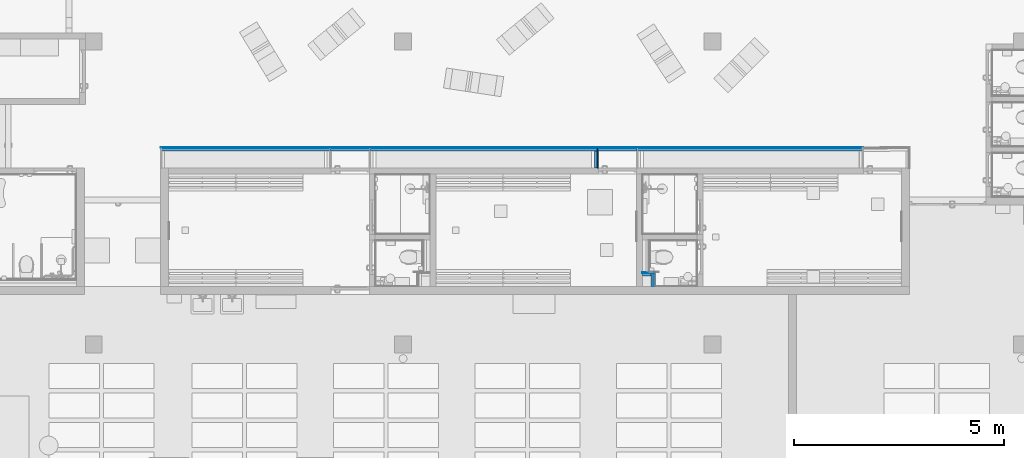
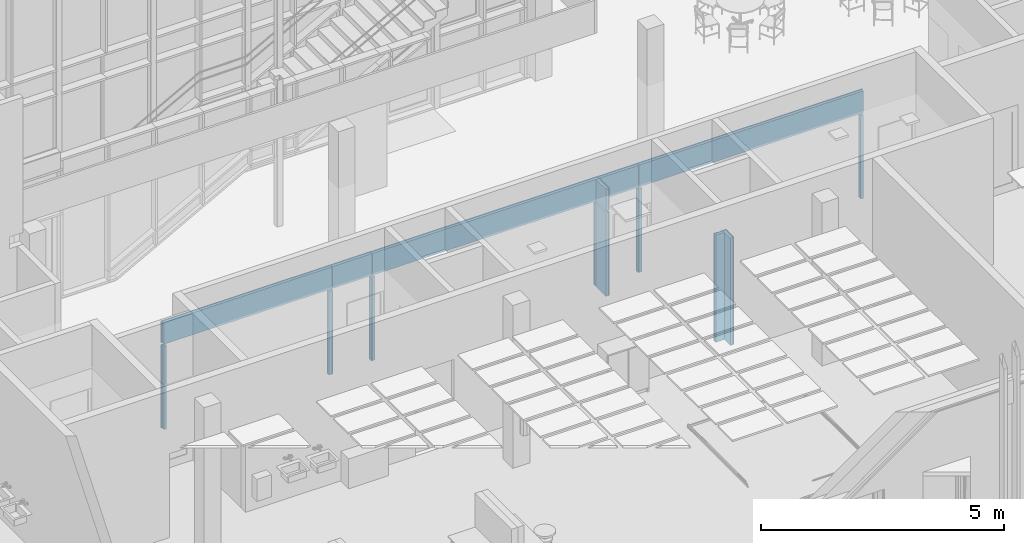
# One storey, part 196 of 301: 12 building element parts, 6 openings, 4 elements without a shape of their own.
"""IFC2X3 building model written with IfcOpenShell, lengths in millimetres."""

import ifcopenshell
import ifcopenshell.guid

model = None  # the IFC model being written
_history = None  # IfcOwnerHistory: only IFC2X3 demands one
_inside = {}  # id of a spatial element -> (the spatial element, [elements in it])
_under = {}  # id of a project, library or spatial element -> (it, [spatial elements below it])
_declared = {}  # id of a project -> (the project, [libraries it declares])
_typed = {}  # id of a type object -> (the type object, [elements of that type])
_made_of = {}  # id of a material, layer set ... -> (it, [elements and type objects made of it])


def new_model(schema):
    """Start an empty IFC model of exactly this schema.

    Asked for "IFC4X3", IfcOpenShell would pick the latest addendum, in which some entities
    have other attributes; the version numbers below select the first issue.
    IFC2X3 requires an IfcOwnerHistory on every rooted entity: one is made here for all.
    """
    global model, _history
    if schema == "IFC4X3":
        model = ifcopenshell.file(schema_version=(4, 3, 0, 0))
    else:
        model = ifcopenshell.file(schema=schema)
    _inside.clear()
    _under.clear()
    _declared.clear()
    _typed.clear()
    _made_of.clear()
    _history = None
    if model.schema == "IFC2X3":
        org = make("IfcOrganization", Name="unknown")
        user = make(
            "IfcPersonAndOrganization",
            ThePerson=make("IfcPerson", FamilyName="unknown"),
            TheOrganization=org,
        )
        app = make(
            "IfcApplication",
            ApplicationDeveloper=org,
            Version="unknown",
            ApplicationFullName="unknown",
            ApplicationIdentifier="unknown",
        )
        _history = make(
            "IfcOwnerHistory",
            OwningUser=user,
            OwningApplication=app,
            ChangeAction="ADDED",
            CreationDate=0,
        )
    return model


def make(cls, **values):
    """One entity of the class cls with the attributes given. An attribute that is None is left unset."""
    return model.create_entity(
        cls, **{name: value for name, value in values.items() if value is not None}
    )


def entity(cls, *values):
    """Any entity or typed value of the class cls, its attributes in the order of the schema. None: left unset."""
    e = model.create_entity(cls)
    for i, value in enumerate(values):
        if value is not None:
            e[i] = value
    return e


def rooted(cls, **values):
    """An entity with a GlobalId (a new one), such as an element, a storey or a relation."""
    return make(cls, GlobalId=ifcopenshell.guid.new(), OwnerHistory=_history, **values)


def si_unit(unit_type, name, prefix=None):
    """IfcSIUnit, for example si_unit("LENGTHUNIT", "METRE", prefix="MILLI")."""
    return make("IfcSIUnit", UnitType=unit_type, Prefix=prefix, Name=name)


def converted_unit(unit_type, name, factor, base, dimensions=None, offset=None):
    """IfcConversionBasedUnit, such as the inch: factor (a typed value) times the base unit."""
    return make(
        "IfcConversionBasedUnit"
        if offset is None
        else "IfcConversionBasedUnitWithOffset",
        ConversionOffset=offset,
        Dimensions=None
        if dimensions is None
        else entity("IfcDimensionalExponents", *dimensions),
        UnitType=unit_type,
        Name=name,
        ConversionFactor=make(
            "IfcMeasureWithUnit", ValueComponent=factor, UnitComponent=base
        ),
    )


def derived_unit(unit_type, elements):
    """IfcDerivedUnit: a product of units, each with its exponent."""
    return make(
        "IfcDerivedUnit",
        Elements=[
            make("IfcDerivedUnitElement", Unit=unit, Exponent=power)
            for unit, power in elements
        ],
        UnitType=unit_type,
    )


def money_unit(currency):
    """IfcMonetaryUnit."""
    return make("IfcMonetaryUnit", Currency=currency)


def assignment(units):
    """IfcUnitAssignment: the units of a project."""
    return None if units is None else make("IfcUnitAssignment", Units=units)


def point(xyz):
    """IfcCartesianPoint."""
    return None if xyz is None else make("IfcCartesianPoint", Coordinates=xyz)


def direction(xyz):
    """IfcDirection."""
    return None if xyz is None else make("IfcDirection", DirectionRatios=xyz)


def frame(location, z_axis=None, x_axis=None):
    """IfcAxis2Placement3D, a coordinate frame: its origin and axes. An axis left out is left unset."""
    return make(
        "IfcAxis2Placement3D",
        Location=point(location),
        Axis=direction(z_axis),
        RefDirection=direction(x_axis),
    )


def origin_with_axes():
    """The frame at (0, 0, 0) with the z axis (0, 0, 1) and the x axis (1, 0, 0) written out."""
    return frame((0.0, 0.0, 0.0), z_axis=(0.0, 0.0, 1.0), x_axis=(1.0, 0.0, 0.0))


def place(relative_to, where):
    """IfcLocalPlacement: puts the frame where relative to a parent placement (None: the world)."""
    return make(
        "IfcLocalPlacement", PlacementRelTo=relative_to, RelativePlacement=where
    )


def context(
    kind, dimensions, precision=None, world=None, true_north=None, identifier=None
):
    """IfcGeometricRepresentationContext, for example the 3D "Model" context."""
    return make(
        "IfcGeometricRepresentationContext",
        ContextIdentifier=identifier,
        ContextType=kind,
        CoordinateSpaceDimension=dimensions,
        Precision=precision,
        WorldCoordinateSystem=world,
        TrueNorth=true_north,
    )


def subcontext(parent, identifier, kind, view, scale=None):
    """IfcGeometricRepresentationSubContext, for example "Body" below "Model"."""
    return make(
        "IfcGeometricRepresentationSubContext",
        ContextIdentifier=identifier,
        ContextType=kind,
        ParentContext=parent,
        TargetScale=scale,
        TargetView=view,
    )


def project(units=None, contexts=None):
    """IfcProject with its units and contexts."""
    return rooted(
        "IfcProject",
        Name="project",
        RepresentationContexts=contexts,
        UnitsInContext=assignment(units),
    )


def spatial(cls, under=None, at=None, **own):
    """A site, building, storey or space (cls), placed at a placement, below another one or the project."""
    s = rooted(cls, ObjectPlacement=at, **own)
    if under is not None:
        _under.setdefault(under.id(), (under, []))[1].append(s)
    return s


def faces_of(points, faces, orient=None, outer=None):
    """IfcFace entities. A face is a list of loops; a loop is a list of indices into points, from 0.

    orient and outer hold one flag for each loop. By default every Orientation is true, the
    first loop of a face is its IfcFaceOuterBound and the others are IfcFaceBound.
    """
    made = []
    for i, loops in enumerate(faces):
        bounds = []
        for j, loop in enumerate(loops):
            is_outer = j == 0 if outer is None else outer[i][j]
            bounds.append(
                make(
                    "IfcFaceOuterBound" if is_outer else "IfcFaceBound",
                    Bound=make("IfcPolyLoop", Polygon=[points[k] for k in loop]),
                    Orientation=True if orient is None else orient[i][j],
                )
            )
        made.append(make("IfcFace", Bounds=bounds))
    return made


def faceted_brep(points, faces, orient=None, outer=None, voids=None):
    """IfcFacetedBrep: a solid bounded by flat faces; with voids (closed shells), ...WithVoids."""
    shared = [point(p) for p in points]
    hull = make("IfcClosedShell", CfsFaces=faces_of(shared, faces, orient, outer))
    if voids is None:
        return make("IfcFacetedBrep", Outer=hull)
    return make(
        "IfcFacetedBrepWithVoids",
        Outer=hull,
        Voids=[
            make(cls, CfsFaces=faces_of(shared, fs, o, b)) for cls, fs, o, b in voids
        ],
    )


def shape(context_of_items, identifier, shape_type, items):
    """IfcShapeRepresentation: the items that make up one representation, for example the "Body"."""
    return make(
        "IfcShapeRepresentation",
        ContextOfItems=context_of_items,
        RepresentationIdentifier=identifier,
        RepresentationType=shape_type,
        Items=items,
    )


def material(Name=None, Category=None):
    """IfcMaterial."""
    return make("IfcMaterial", Name=Name, Category=Category)


def made_of(thing, what):
    """Note that an element or type object is made of a material, layer set ...; save() writes the relation."""
    if what is not None:
        _made_of.setdefault(what.id(), (what, []))[1].append(thing)
    return thing


def type_object(cls, material=None, **own):
    """A type object (cls), such as IfcWallType, which elements share."""
    return made_of(rooted(cls, **own), material)


def element(
    cls,
    number,
    at=None,
    inside=None,
    cuts=None,
    type_object=None,
    material=None,
    context=None,
    identifier="Body",
    shape_type=None,
    held_by="IfcProductDefinitionShape",
    body=None,
    shapes=None,
    **own,
):
    """One element of the class cls, such as IfcWall. Its Tag is "e" and its number.

    at: its placement. inside: the storey or other place that contains it. cuts: it is an
    opening in that element (IfcRelVoidsElement). A single representation is given by context,
    identifier, shape_type and body (its items); several are given by shapes. held_by: the class
    of the entity that holds the representations. save() writes the other relations.
    """
    e = rooted(cls, Tag="e%d" % number, ObjectPlacement=at, **own)
    if body is not None:
        shapes = [shape(context, identifier, shape_type, body)]
    if shapes is not None:
        e.Representation = make(held_by, Representations=shapes)
    if inside is not None:
        _inside.setdefault(inside.id(), (inside, []))[1].append(e)
    if cuts is not None:
        rooted(
            "IfcRelVoidsElement", RelatingBuildingElement=cuts, RelatedOpeningElement=e
        )
    if type_object is not None:
        _typed.setdefault(type_object.id(), (type_object, []))[1].append(e)
    return made_of(e, material)


def aggregate(whole, parts):
    """IfcRelAggregates: a whole, such as a stair, and the parts it consists of."""
    return rooted("IfcRelAggregates", RelatingObject=whole, RelatedObjects=parts)


def save(model, path):
    """Write the relations noted so far, then the file.

    IfcRelAggregates (storeys below a building ...), IfcRelContainedInSpatialStructure (elements
    in a storey), IfcRelDefinesByType, IfcRelAssociatesMaterial and IfcRelDeclares: one each for
    every whole, place, type object, material and project.
    """
    for whole, parts in _under.values():
        aggregate(whole, parts)
    for where, things in _inside.values():
        rooted(
            "IfcRelContainedInSpatialStructure",
            RelatedElements=things,
            RelatingStructure=where,
        )
    for kind, things in _typed.values():
        rooted("IfcRelDefinesByType", RelatedObjects=things, RelatingType=kind)
    for what, things in _made_of.values():
        rooted("IfcRelAssociatesMaterial", RelatedObjects=things, RelatingMaterial=what)
    for by, libraries in _declared.values():
        rooted("IfcRelDeclares", RelatingContext=by, RelatedDefinitions=libraries)
    model.write(path)


model = new_model("IFC2X3")

# Units and contexts
model_context = context("Model", 3, precision=0.01, world=origin_with_axes(), true_north=direction((0.0, 1.0)))
body_context = subcontext(model_context, "Body", "Model", "MODEL_VIEW")
ifc_project = project(units=[si_unit("LENGTHUNIT", "METRE", prefix="MILLI"), si_unit("AREAUNIT", "SQUARE_METRE"), si_unit("VOLUMEUNIT", "CUBIC_METRE"), converted_unit("PLANEANGLEUNIT", "DEGREE", entity("IfcPlaneAngleMeasure", 0.0174532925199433), si_unit("PLANEANGLEUNIT", "RADIAN"), dimensions=[0, 0, 0, 0, 0, 0, 0]), money_unit("EUR"), converted_unit("TIMEUNIT", "Year", entity("IfcTimeMeasure", 31557600.0), si_unit("TIMEUNIT", "SECOND"), dimensions=[0, 0, 1, 0, 0, 0, 0]), si_unit("MASSUNIT", "GRAM", prefix="KILO"), si_unit("THERMODYNAMICTEMPERATUREUNIT", "DEGREE_CELSIUS"), si_unit("LUMINOUSINTENSITYUNIT", "LUMEN"), si_unit("ENERGYUNIT", "JOULE", prefix="MEGA"), derived_unit("THERMALCONDUCTANCEUNIT", [(si_unit("POWERUNIT", "WATT"), 1), (si_unit("LENGTHUNIT", "METRE"), -1), (si_unit("THERMODYNAMICTEMPERATUREUNIT", "KELVIN"), -1)]), derived_unit("SPECIFICHEATCAPACITYUNIT", [(si_unit("ENERGYUNIT", "JOULE"), 1), (si_unit("MASSUNIT", "GRAM", prefix="KILO"), -1), (si_unit("THERMODYNAMICTEMPERATUREUNIT", "KELVIN"), -1)]), derived_unit("MASSDENSITYUNIT", [(si_unit("MASSUNIT", "GRAM", prefix="KILO"), 1), (si_unit("VOLUMEUNIT", "CUBIC_METRE"), -1)])], contexts=[model_context])

# Site, building, storey
site_placement = place(None, frame((0.0, 0.0, 8650.0), z_axis=(0.0, 0.0, 1.0), x_axis=(1.0, 0.0, 0.0)))
site = spatial("IfcSite", under=ifc_project, at=site_placement, Name="43301:001:0844", CompositionType="ELEMENT")
building_placement = place(site_placement, origin_with_axes())
building = spatial("IfcBuilding", under=site, at=building_placement, Name="Kuressaare Ametikooli tuulikute mehaanikute õppekorpus", CompositionType="ELEMENT")
storey_placement = place(building_placement, origin_with_axes())
storey = spatial("IfcBuildingStorey", under=building, at=storey_placement, Name="1.korrus", CompositionType="ELEMENT", Elevation=0.0)

# Wall, building element parts
wall_type = type_object("IfcWallType", Name="SS-2.4 92", PredefinedType="NOTDEFINED")
wall_1_placement = place(storey_placement, frame((115855.2601639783, 21264.83711779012, 0.0), z_axis=(0.0, 0.0, 1.0), x_axis=(-1.369512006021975e-07, -0.9999999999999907, 0.0)))
wall_1 = element("IfcWall", 1, at=wall_1_placement, inside=storey, type_object=wall_type, Name="Sisesein")
ifc_material_1 = material(Name="Plaster - Gypsum")
building_element_part_1_placement = place(wall_1_placement, origin_with_axes())
building_element_part_1 = element("IfcBuildingElementPart", 2, at=building_element_part_1_placement, material=ifc_material_1, Name="Plaster - Gypsum", context=body_context, shape_type="Brep", body=[
    faceted_brep([(92.0000035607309, -13.00000000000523, 2100.0), (91.99999999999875, 0.0, 2100.0), (91.99999999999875, 0.0, 0.0), (92.0000035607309, -13.00000000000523, 0.0), (500.0014242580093, 1.989519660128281e-10, 2100.0), (500.0014260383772, -12.99999999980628, 2100.0), (500.0, 0.0, 0.0), (500.0000000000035, -13.00000000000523, 0.0)], [[[0, 1, 2, 3]], [[4, 1, 0, 5]], [[1, 4, 6, 2]], [[2, 6, 7, 3]], [[5, 0, 3, 7]], [[4, 5, 7, 6]]]),
    faceted_brep([(500.0014242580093, 1.989519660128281e-10, 2150.0), (91.99999999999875, 0.0, 2150.0), (91.99999999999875, 0.0, 2700.0), (500.0, 0.0, 2700.0), (92.0000035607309, -13.00000000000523, 2150.0), (500.0014260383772, -12.99999999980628, 2150.0), (92.0000035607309, -13.00000000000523, 2700.0), (500.0000000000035, -13.00000000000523, 2700.0)], [[[0, 1, 2, 3]], [[4, 1, 0, 5]], [[1, 4, 6, 2]], [[6, 7, 3, 2]], [[5, 0, 3, 7]], [[4, 5, 7, 6]]]),
])
ifc_material_2 = material(Name="Plywood")
building_element_part_2_placement = place(wall_1_placement, origin_with_axes())
building_element_part_2 = element("IfcBuildingElementPart", 3, at=building_element_part_2_placement, material=ifc_material_2, Name="Plywood", context=body_context, shape_type="Brep", body=[
    faceted_brep([(26.000007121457, -25.99999999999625, 2100.0), (26.0000035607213, -12.99999999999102, 2100.0), (26.0000035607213, -12.99999999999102, 0.0), (26.000007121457, -25.99999999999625, 0.0), (500.0014260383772, -12.99999999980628, 2100.0), (500.0014278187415, -25.99999999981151, 2100.0), (500.0000000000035, -13.00000000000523, 0.0), (500.0, -26.00000000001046, 0.0)], [[[0, 1, 2, 3]], [[4, 1, 0, 5]], [[1, 4, 6, 2]], [[2, 6, 7, 3]], [[5, 0, 3, 7]], [[4, 5, 7, 6]]]),
    faceted_brep([(500.0014260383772, -12.99999999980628, 2150.0), (26.0000035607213, -12.99999999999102, 2150.0), (26.0000035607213, -12.99999999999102, 2700.0), (500.0000000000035, -13.00000000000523, 2700.0), (26.000007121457, -25.99999999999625, 2150.0), (500.0014278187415, -25.99999999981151, 2150.0), (26.000007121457, -25.99999999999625, 2700.0), (500.0, -26.00000000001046, 2700.0)], [[[0, 1, 2, 3]], [[4, 1, 0, 5]], [[1, 4, 6, 2]], [[6, 7, 3, 2]], [[5, 0, 3, 7]], [[4, 5, 7, 6]]]),
])
ifc_material_3 = material(Name="Air Space - Frame")
building_element_part_3_placement = place(wall_1_placement, origin_with_axes())
building_element_part_3 = element("IfcBuildingElementPart", 4, at=building_element_part_3_placement, material=ifc_material_3, Name="Air Space - Frame", context=body_context, shape_type="Brep", body=[
    faceted_brep([(92.00002519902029, -92.00000000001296, 2100.0), (92.00000712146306, -26.00000000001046, 2100.0), (92.00000712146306, -26.00000000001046, 0.0), (92.00002519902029, -92.00000000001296, 0.0), (500.0014278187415, -25.99999999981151, 2100.0), (500.00143685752, -91.9999999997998, 2100.0), (500.0, -26.00000000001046, 0.0), (500.0, -91.99999999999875, 0.0)], [[[0, 1, 2, 3]], [[4, 1, 0, 5]], [[1, 4, 6, 2]], [[2, 6, 7, 3]], [[5, 0, 3, 7]], [[4, 5, 7, 6]]]),
    faceted_brep([(500.0014278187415, -25.99999999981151, 2150.0), (92.00000712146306, -26.00000000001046, 2150.0), (92.00000712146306, -26.00000000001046, 2700.0), (500.0, -26.00000000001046, 2700.0), (92.00002519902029, -92.00000000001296, 2150.0), (500.00143685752, -91.9999999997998, 2150.0), (92.00002519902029, -92.00000000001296, 2700.0), (500.0, -91.99999999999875, 2700.0)], [[[0, 1, 2, 3]], [[4, 1, 0, 5]], [[1, 4, 6, 2]], [[6, 7, 3, 2]], [[5, 0, 3, 7]], [[4, 5, 7, 6]]]),
])
aggregate(wall_1, [building_element_part_1, building_element_part_2, building_element_part_3])

wall_2_placement = place(storey_placement, frame((117195.2610393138, 18294.83807443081, 0.0), z_axis=(0.0, 0.0, 1.0), x_axis=(3.329163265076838e-07, -0.9999999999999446, 0.0)))
wall_2 = element("IfcWall", 5, at=wall_2_placement, inside=storey, type_object=wall_type, Name="Sisesein")
building_element_part_4_placement = place(wall_2_placement, origin_with_axes())
building_element_part_4 = element("IfcBuildingElementPart", 6, at=building_element_part_4_placement, material=ifc_material_1, Name="Plaster - Gypsum", context=body_context, shape_type="Brep", body=[
    faceted_brep([(340.0017374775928, 0.0, 0.0), (2.980232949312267e-06, 0.0, 0.0), (0.0, 0.0, 2700.0), (340.0017374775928, 0.0, 2700.0), (340.0017374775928, 0.0, 2600.0), (340.0017331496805, -13.00000000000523, 0.0), (-1.347679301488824e-06, -13.00000000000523, 0.0), (-4.32791580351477e-06, -13.00000000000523, 2700.0), (340.0017374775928, -13.00000000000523, 2700.0)], [[[0, 1, 2, 3, 4]], [[5, 6, 1, 0]], [[7, 2, 1, 6]], [[3, 2, 7, 8]], [[3, 8, 5, 0, 4]], [[7, 6, 5, 8]]]),
])
building_element_part_5_placement = place(wall_2_placement, origin_with_axes())
building_element_part_5 = element("IfcBuildingElementPart", 7, at=building_element_part_5_placement, material=ifc_material_2, Name="Plywood", context=body_context, shape_type="Brep", body=[
    faceted_brep([(12.99999567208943, -13.00000000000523, 0.0), (12.99999567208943, -13.00000000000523, 2600.0), (12.99999567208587, -13.00000000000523, 2700.0), (340.0017374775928, -13.00000000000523, 2700.0), (340.0017331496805, -13.00000000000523, 0.0), (12.99999134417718, -25.99999999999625, 0.0), (12.99999134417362, -25.99999999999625, 2700.0), (340.0017374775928, -25.99999999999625, 2700.0), (340.0017288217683, -26.00000000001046, 0.0)], [[[0, 1, 2, 3, 4]], [[1, 0, 5, 6, 2]], [[2, 6, 7, 3]], [[3, 7, 8, 4]], [[5, 0, 4, 8]], [[5, 8, 7, 6]]]),
])

# Wall, building element part
wall_3_placement = place(storey_placement, frame((116905.2601838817, 18294.83807443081, 0.0), z_axis=(0.0, 0.0, 1.0), x_axis=(1.0, 0.0, 0.0)))
wall_3 = element("IfcWall", 8, at=wall_3_placement, inside=storey, type_object=wall_type, Name="Sisesein")
building_element_part_6_placement = place(wall_3_placement, origin_with_axes())
building_element_part_6 = element("IfcBuildingElementPart", 9, at=building_element_part_6_placement, material=ifc_material_1, Name="Plaster - Gypsum", context=body_context, shape_type="Brep", body=[
    faceted_brep([(78.00085976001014, -12.99999999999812, 2700.0), (78.00085543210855, 0.0, 2700.0), (0.005105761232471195, 0.0, 2700.0), (0.005134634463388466, -12.99999999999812, 2700.0), (78.00085976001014, -12.99999999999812, 2600.0), (78.00085976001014, -13.00000000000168, 0.0), (78.00085543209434, 0.0, 0.0), (0.005105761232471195, 0.0, 0.0), (0.005134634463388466, -13.00000000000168, 0.0)], [[[0, 1, 2, 3]], [[1, 0, 4, 5, 6]], [[1, 6, 7, 2]], [[8, 3, 2, 7]], [[4, 0, 3, 8, 5]], [[6, 5, 8, 7]]]),
    faceted_brep([(277.0008597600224, -12.99999999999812, 2700.0), (277.0008597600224, -13.00000000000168, 0.0), (277.0008554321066, -2.980232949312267e-06, 0.0), (277.0008554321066, 0.0, 2700.0), (157.0008597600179, -12.99999999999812, 2700.0), (157.0008597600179, -12.99999999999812, 2600.0), (157.0008597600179, -13.00000000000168, 0.0), (157.0008554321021, 0.0, 0.0), (157.0008554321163, 0.0, 2700.0)], [[[0, 1, 2, 3]], [[1, 0, 4, 5, 6]], [[2, 1, 6, 7]], [[2, 7, 8, 3]], [[0, 3, 8, 4]], [[5, 4, 8, 7, 6]]]),
])

# Building element part
building_element_part_7_placement = place(wall_2_placement, origin_with_axes())
building_element_part_7 = element("IfcBuildingElementPart", 10, at=building_element_part_7_placement, material=ifc_material_3, Name="Air Space - Frame", context=body_context, shape_type="Brep", body=[
    faceted_brep([(25.9999913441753, -26.00000000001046, 0.0), (25.9999913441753, -26.00000000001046, 2600.0), (25.9999913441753, -26.00000000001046, 2700.0), (340.0017374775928, -25.99999999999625, 2700.0), (340.0017288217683, -26.00000000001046, 0.0), (25.9999693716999, -92.00000000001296, 0.0), (25.9999693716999, -92.00000000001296, 2700.0), (340.0017374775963, -92.00000000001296, 2700.0), (340.0017068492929, -91.99999999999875, 2600.0), (340.0017068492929, -91.99999999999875, 0.0)], [[[0, 1, 2, 3, 4]], [[1, 0, 5, 6, 2]], [[2, 6, 7, 3]], [[7, 8, 9, 4, 3]], [[5, 0, 4, 9]], [[5, 9, 8, 7, 6]]]),
])

aggregate(wall_2, [building_element_part_4, building_element_part_5, building_element_part_7])

building_element_part_8_placement = place(wall_3_placement, origin_with_axes())
building_element_part_8 = element("IfcBuildingElementPart", 11, at=building_element_part_8_placement, material=ifc_material_3, Name="Air Space - Frame", context=body_context, shape_type="Brep", body=[
    faceted_brep([(198.0008860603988, -91.99999999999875, 2700.0), (198.000886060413, -91.99999999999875, 0.0), (198.0008640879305, -25.9999999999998, 0.0), (198.0008640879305, -25.9999999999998, 2700.0), (0.005310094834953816, -91.99999999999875, 2700.0), (0.005310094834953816, -91.99999999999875, 0.0), (0.005163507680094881, -25.9999999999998, 0.0), (0.005163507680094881, -25.9999999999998, 2700.0)], [[[0, 1, 2, 3]], [[1, 0, 4, 5]], [[2, 1, 5, 6]], [[2, 6, 7, 3]], [[0, 3, 7, 4]], [[5, 4, 7, 6]]]),
])

building_element_part_9_placement = place(wall_3_placement, origin_with_axes())
building_element_part_9 = element("IfcBuildingElementPart", 12, at=building_element_part_9_placement, material=ifc_material_2, Name="Plywood", context=body_context, shape_type="Brep", body=[
    faceted_brep([(264.000864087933, -25.9999999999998, 2700.0), (264.000864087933, -25.9999999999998, 0.0), (264.0008597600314, -13.00000000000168, 0.0), (264.0008597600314, -12.99999999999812, 2700.0), (0.005163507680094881, -25.9999999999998, 2700.0), (0.005163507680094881, -25.9999999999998, 0.0), (0.005134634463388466, -13.00000000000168, 0.0), (0.005134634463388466, -12.99999999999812, 2700.0)], [[[0, 1, 2, 3]], [[1, 0, 4, 5]], [[2, 1, 5, 6]], [[2, 6, 7, 3]], [[0, 3, 7, 4]], [[5, 4, 7, 6]]]),
])

aggregate(wall_3, [building_element_part_6, building_element_part_8, building_element_part_9])

# Wall, openings, building element parts
wall_4_placement = place(storey_placement, frame((105455.5118780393, 21264.83569353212, 0.0), z_axis=(0.0, 0.0, 1.0), x_axis=(0.9999999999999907, 1.369512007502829e-07, 0.0)))
wall_4 = element("IfcWall", 13, at=wall_4_placement, inside=storey, type_object=wall_type, Name="Sisesein")
opening_1_placement = place(wall_4_placement, frame((7679.874182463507, 0.0, 0.0), z_axis=(0.0, 0.0, 1.0), x_axis=(1.0, 0.0, 0.0)))
element("IfcOpeningElement", 14, at=opening_1_placement, cuts=wall_4, Name="ava", context=body_context, shape_type="Brep", body=[
    faceted_brep([(-2627.874078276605, 0.0, 2110.0), (2627.874078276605, 0.0, 2110.0), (2627.874078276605, 1.002287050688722, 2110.0), (-2627.874078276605, 1.002287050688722, 2110.0), (-2627.874078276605, -93.00228705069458, 2110.0), (2627.874078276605, -93.00228705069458, 2110.0), (2627.874078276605, 0.0, 0.0), (2627.874078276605, 1.002287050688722, 0.0), (-2627.874078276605, 1.002287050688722, 0.0), (-2627.874078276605, 0.0, 0.0), (-2627.874078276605, -93.00228705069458, 0.0), (2627.874078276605, -93.00228705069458, 0.0)], [[[0, 1, 2, 3]], [[1, 0, 4, 5]], [[1, 6, 7, 2]], [[7, 8, 3, 2]], [[9, 0, 3, 8]], [[0, 9, 10, 4]], [[4, 10, 11, 5]], [[6, 1, 5, 11]], [[6, 9, 8, 7]], [[9, 6, 11, 10]]]),
])
opening_2_placement = place(wall_4_placement, frame((4505.000104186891, 0.0, 0.0), z_axis=(0.0, 0.0, 1.0), x_axis=(1.0, 0.0, 0.0)))
element("IfcOpeningElement", 15, at=opening_2_placement, cuts=wall_4, Name="ava", context=body_context, shape_type="Brep", body=[
    faceted_brep([(-455.0000000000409, 0.0, 2110.0), (455.0000000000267, 0.0, 2110.0), (455.0000000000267, 1.002287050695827, 2110.0), (-455.0000000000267, 1.002287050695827, 2110.0), (-455.0000000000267, -93.00228705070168, 2110.0), (455.0000000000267, -93.00228705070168, 2110.0), (455.0000000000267, 0.0, 0.0), (455.0000000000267, 1.002287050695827, 0.0), (-455.0000000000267, 1.002287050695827, 0.0), (-455.0000000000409, 0.0, 0.0), (-455.0000000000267, -93.00228705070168, 0.0), (455.0000000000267, -93.00228705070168, 0.0)], [[[0, 1, 2, 3]], [[1, 0, 4, 5]], [[1, 6, 7, 2]], [[7, 8, 3, 2]], [[9, 0, 3, 8]], [[0, 9, 10, 4]], [[4, 10, 11, 5]], [[6, 1, 5, 11]], [[6, 9, 8, 7]], [[9, 6, 11, 10]]]),
])
opening_3_placement = place(wall_4_placement, frame((2025.000052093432, 0.0, 0.0), z_axis=(0.0, 0.0, 1.0), x_axis=(1.0, 0.0, 0.0)))
element("IfcOpeningElement", 16, at=opening_3_placement, cuts=wall_4, Name="ava", context=body_context, shape_type="Brep", body=[
    faceted_brep([(-1933.000052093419, 0.0, 2110.0), (1933.000052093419, 0.0, 2110.0), (1933.000052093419, 1.002287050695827, 2110.0), (-1933.000052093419, 1.002287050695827, 2110.0), (-1933.000052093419, -93.00228705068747, 2110.0), (1933.000052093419, -93.00228705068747, 2110.0), (1933.000052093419, 0.0, 0.0), (1933.000052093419, 1.002287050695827, 0.0), (-1933.000052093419, 1.002287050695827, 0.0), (-1933.000052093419, 0.0, 0.0), (-1933.000052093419, -93.00228705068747, 0.0), (1933.000052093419, -93.00228705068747, 0.0)], [[[0, 1, 2, 3]], [[1, 0, 4, 5]], [[1, 6, 7, 2]], [[7, 8, 3, 2]], [[9, 0, 3, 8]], [[0, 9, 10, 4]], [[4, 10, 11, 5]], [[6, 1, 5, 11]], [[6, 9, 8, 7]], [[9, 6, 11, 10]]]),
])
opening_4_placement = place(wall_4_placement, frame((14004.74866623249, 0.0, 0.0), z_axis=(0.0, 0.0, 1.0), x_axis=(1.0, 0.0, 0.0)))
element("IfcOpeningElement", 17, at=opening_4_placement, cuts=wall_4, Name="ava", context=body_context, shape_type="Brep", body=[
    faceted_brep([(-2603.000405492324, 0.0, 2110.0), (2603.000405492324, 0.0, 2110.0), (2603.000405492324, 1.002287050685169, 2110.0), (-2603.000405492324, 1.002287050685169, 2110.0), (-2603.000405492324, -93.00228705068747, 2110.0), (2603.000405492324, -93.00228705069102, 2110.0), (2603.000405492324, 0.0, 0.0), (2603.000405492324, 1.002287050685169, 0.0), (-2603.000405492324, 1.002287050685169, 0.0), (-2603.000405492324, 0.0, 0.0), (-2603.000405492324, -93.00228705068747, 0.0), (2603.000405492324, -93.00228705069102, 0.0)], [[[0, 1, 2, 3]], [[1, 0, 4, 5]], [[1, 6, 7, 2]], [[7, 8, 3, 2]], [[9, 0, 3, 8]], [[0, 9, 10, 4]], [[4, 10, 11, 5]], [[6, 1, 5, 11]], [[6, 9, 8, 7]], [[9, 6, 11, 10]]]),
])
opening_5_placement = place(wall_4_placement, frame((18154.74897816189, 0.0, 0.0), z_axis=(0.0, 0.0, 1.0), x_axis=(1.0, 0.0, 0.0)))
element("IfcOpeningElement", 18, at=opening_5_placement, cuts=wall_4, Name="ava", context=body_context, shape_type="Brep", body=[
    faceted_brep([(-1454.999906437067, 0.0, 2110.0), (1454.999906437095, 0.0, 2110.0), (1454.999906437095, 1.002287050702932, 2110.0), (-1454.999906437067, 1.002287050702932, 2110.0), (-1454.999906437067, -93.00228705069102, 2110.0), (1454.999906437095, -93.00228705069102, 2110.0), (1454.999906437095, 0.0, 0.0), (1454.999906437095, 1.002287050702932, 0.0), (-1454.999906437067, 1.002287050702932, 0.0), (-1454.999906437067, 0.0, 0.0), (-1454.999906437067, -93.00228705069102, 0.0), (1454.999906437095, -93.00228705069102, 0.0)], [[[0, 1, 2, 3]], [[1, 0, 4, 5]], [[1, 6, 7, 2]], [[7, 8, 3, 2]], [[9, 0, 3, 8]], [[0, 9, 10, 4]], [[4, 10, 11, 5]], [[6, 1, 5, 11]], [[6, 9, 8, 7]], [[9, 6, 11, 10]]]),
])
opening_6_placement = place(wall_4_placement, frame((10854.74826074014, 0.0, 0.0), z_axis=(0.0, 0.0, 1.0), x_axis=(1.0, 0.0, 0.0)))
element("IfcOpeningElement", 19, at=opening_6_placement, cuts=wall_4, Name="ava", context=body_context, shape_type="Brep", body=[
    faceted_brep([(-455.0000000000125, 0.0, 2110.0), (455.0000000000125, 0.0, 2110.0), (455.0000000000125, 1.00228705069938, 2110.0), (-455.0000000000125, 1.00228705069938, 2110.0), (-455.0000000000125, -93.00228705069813, 2110.0), (455.0000000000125, -93.00228705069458, 2110.0), (455.0000000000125, 0.0, 0.0), (455.0000000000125, 1.00228705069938, 0.0), (-455.0000000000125, 1.00228705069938, 0.0), (-455.0000000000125, 0.0, 0.0), (-455.0000000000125, -93.00228705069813, 0.0), (455.0000000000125, -93.00228705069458, 0.0)], [[[0, 1, 2, 3]], [[1, 0, 4, 5]], [[1, 6, 7, 2]], [[7, 8, 3, 2]], [[9, 0, 3, 8]], [[0, 9, 10, 4]], [[4, 10, 11, 5]], [[6, 1, 5, 11]], [[6, 9, 8, 7]], [[9, 6, 11, 10]]]),
])
building_element_part_10_placement = place(wall_4_placement, origin_with_axes())
building_element_part_10 = element("IfcBuildingElementPart", 20, at=building_element_part_10_placement, material=ifc_material_1, Name="Plaster - Gypsum", context=body_context, shape_type="Brep", body=[
    faceted_brep([(6.847594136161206e-05, 0.002437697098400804, 2100.0), (90.00006091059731, 0.002425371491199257, 2100.0), (90.0000609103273, 0.0005279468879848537, 0.0), (0.0, 0.0, 0.0), (90.00005912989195, -13.00001232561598, 2100.0), (6.669523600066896e-05, -13.00000000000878, 2100.0), (90.00005912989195, -13.00001232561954, 0.0), (0.0, -13.00000000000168, 0.0)], [[[0, 1, 2, 3]], [[4, 1, 0, 5]], [[1, 4, 6, 2]], [[2, 6, 7, 3]], [[5, 0, 3, 7]], [[4, 5, 7, 6]]]),
    faceted_brep([(5052.000104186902, 0.0, 2100.0), (5052.000104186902, 0.0, 0.0), (4960.000104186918, 0.0, 0.0), (4960.000104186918, 0.0, 2100.0), (5052.000104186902, -13.00069187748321, 0.0), (5052.000104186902, -13.00069187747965, 2100.0), (4960.000104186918, -13.00067927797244, 0.0), (4960.000104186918, -13.00067927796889, 2100.0)], [[[0, 1, 2, 3]], [[4, 1, 0, 5]], [[1, 4, 6, 2]], [[2, 6, 7, 3]], [[5, 0, 3, 7]], [[4, 5, 7, 6]]]),
    faceted_brep([(3958.000104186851, 0.0, 0.0), (3958.000104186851, 0.0, 2100.0), (4050.00010418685, 0.0, 2100.0), (4050.00010418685, 0.0, 0.0), (3958.000104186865, -13.00054205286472, 2100.0), (3958.000104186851, -13.00054205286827, 0.0), (4050.000104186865, -13.00055465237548, 2100.0), (4050.000104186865, -13.00055465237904, 0.0)], [[[0, 1, 2, 3]], [[4, 1, 0, 5]], [[1, 4, 6, 2]], [[2, 6, 7, 3]], [[5, 0, 3, 7]], [[4, 5, 7, 6]]]),
    faceted_brep([(10399.74826074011, -13.00142425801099, 2100.0), (10399.74826074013, 0.0, 2100.0), (10307.74826074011, 0.0, 2100.0), (10307.7482607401, -13.00141165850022, 2100.0), (10399.74826074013, 0.0, 0.0), (10399.74826074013, -13.00142425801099, 0.0), (10307.74826074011, 0.0, 0.0), (10307.7482607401, -13.00141165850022, 0.0)], [[[0, 1, 2, 3]], [[4, 1, 0, 5]], [[1, 4, 6, 2]], [[6, 7, 3, 2]], [[5, 0, 3, 7]], [[4, 5, 7, 6]]]),
    faceted_brep([(11309.74826074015, 0.0, 0.0), (11309.74826074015, 0.0, 2100.0), (11401.74826074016, 0.0, 2100.0), (11401.74826074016, 0.0, 0.0), (11309.74826074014, -13.00154888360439, 2100.0), (11309.74826074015, -13.00154888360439, 0.0), (11401.74826074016, -13.00156148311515, 2100.0), (11401.74826074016, -13.00156148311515, 0.0)], [[[0, 1, 2, 3]], [[4, 1, 0, 5]], [[1, 4, 6, 2]], [[2, 6, 7, 3]], [[5, 0, 3, 7]], [[4, 5, 7, 6]]]),
    faceted_brep([(16607.74907172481, 0.0, 0.0), (16607.74907172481, 0.0, 2100.0), (16699.74909692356, 0.0001506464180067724, 2100.0), (16699.74909692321, -0.002287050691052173, 0.0), (16607.7490717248, -13.00227445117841, 2100.0), (16607.74907172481, -13.00227445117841, 0.0), (16699.74909336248, -13.00228705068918, 2100.0), (16699.74909336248, -13.00228705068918, 0.0)], [[[0, 1, 2, 3]], [[4, 1, 0, 5]], [[1, 4, 6, 2]], [[6, 7, 3, 2]], [[5, 0, 3, 7]], [[4, 5, 7, 6]]]),
    faceted_brep([(16699.74909336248, -13.00228705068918, 2150.0), (16699.74909692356, 0.0001506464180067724, 2150.0), (16699.74909692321, -0.002287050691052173, 2700.0), (16699.74909336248, -13.00228705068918, 2700.0), (6.847594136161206e-05, 0.002437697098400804, 2150.0), (6.669523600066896e-05, -13.00000000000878, 2150.0), (0.0, 0.0, 2700.0), (0.0, -12.99999999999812, 2700.0)], [[[0, 1, 2, 3]], [[4, 1, 0, 5]], [[1, 4, 6, 2]], [[3, 2, 6, 7]], [[5, 0, 3, 7]], [[4, 5, 7, 6]]]),
])
building_element_part_11_placement = place(wall_4_placement, origin_with_axes())
building_element_part_11 = element("IfcBuildingElementPart", 21, at=building_element_part_11_placement, material=ifc_material_2, Name="Plywood", context=body_context, shape_type="Brep", body=[
    faceted_brep([(13.00000000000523, -13.00000178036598, 2100.0), (90.00005912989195, -13.00001232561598, 2100.0), (90.00005912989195, -13.00001232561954, 0.0), (13.00000000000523, -13.00000178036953, 0.0), (90.00005734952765, -26.00001232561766, 2100.0), (13.00000000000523, -26.00000178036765, 2100.0), (90.00005734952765, -26.00001232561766, 0.0), (13.00000000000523, -26.00000178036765, 0.0)], [[[0, 1, 2, 3]], [[4, 1, 0, 5]], [[1, 4, 6, 2]], [[2, 6, 7, 3]], [[5, 0, 3, 7]], [[4, 5, 7, 6]]]),
    faceted_brep([(5052.000104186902, -13.00069187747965, 2100.0), (5052.000104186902, -13.00069187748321, 0.0), (4960.000104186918, -13.00067927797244, 0.0), (4960.000104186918, -13.00067927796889, 2100.0), (5052.000104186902, -26.00069187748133, 0.0), (5052.000104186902, -26.00069187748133, 2100.0), (4960.000104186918, -26.00067927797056, 0.0), (4960.000104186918, -26.00067927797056, 2100.0)], [[[0, 1, 2, 3]], [[4, 1, 0, 5]], [[1, 4, 6, 2]], [[2, 6, 7, 3]], [[5, 0, 3, 7]], [[4, 5, 7, 6]]]),
    faceted_brep([(3958.000104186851, -13.00054205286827, 0.0), (3958.000104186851, -13.00054205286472, 2100.0), (4050.00010418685, -13.00055465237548, 2100.0), (4050.00010418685, -13.00055465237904, 0.0), (3958.000104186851, -26.00054205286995, 2100.0), (3958.000104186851, -26.00054205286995, 0.0), (4050.00010418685, -26.00055465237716, 2100.0), (4050.000104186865, -26.00055465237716, 0.0)], [[[0, 1, 2, 3]], [[4, 1, 0, 5]], [[1, 4, 6, 2]], [[2, 6, 7, 3]], [[5, 0, 3, 7]], [[4, 5, 7, 6]]]),
    faceted_brep([(10399.74826074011, -26.00142425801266, 2100.0), (10399.74826074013, -13.00142425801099, 2100.0), (10307.74826074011, -13.00141165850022, 2100.0), (10307.7482607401, -26.00141165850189, 2100.0), (10399.74826074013, -13.00142425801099, 0.0), (10399.74826074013, -26.00142425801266, 0.0), (10307.74826074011, -13.00141165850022, 0.0), (10307.7482607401, -26.00141165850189, 0.0)], [[[0, 1, 2, 3]], [[4, 1, 0, 5]], [[1, 4, 6, 2]], [[6, 7, 3, 2]], [[5, 0, 3, 7]], [[4, 5, 7, 6]]]),
    faceted_brep([(11309.74826074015, -13.00154888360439, 0.0), (11309.74826074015, -13.00154888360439, 2100.0), (11401.74826074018, -13.00156148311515, 2100.0), (11401.74826074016, -13.00156148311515, 0.0), (11309.74826074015, -26.00154888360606, 2100.0), (11309.74826074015, -26.00154888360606, 0.0), (11401.74826074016, -26.00156148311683, 2100.0), (11401.74826074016, -26.00156148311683, 0.0)], [[[0, 1, 2, 3]], [[4, 1, 0, 5]], [[1, 4, 6, 2]], [[2, 6, 7, 3]], [[5, 0, 3, 7]], [[4, 5, 7, 6]]]),
    faceted_brep([(16607.74907172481, -13.00227445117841, 0.0), (16607.74907172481, -13.00227445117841, 2100.0), (16686.74909336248, -13.00228527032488, 2100.0), (16686.74909336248, -13.00228527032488, 0.0), (16607.7490717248, -26.00227445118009, 2100.0), (16607.74907172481, -26.00227445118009, 0.0), (16686.74908980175, -26.00228527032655, 2100.0), (16686.74908980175, -26.00228527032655, 0.0)], [[[0, 1, 2, 3]], [[4, 1, 0, 5]], [[1, 4, 6, 2]], [[6, 7, 3, 2]], [[5, 0, 3, 7]], [[4, 5, 7, 6]]]),
    faceted_brep([(16686.74908980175, -26.00228527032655, 2150.0), (16686.74909336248, -13.00228527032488, 2150.0), (16686.74909336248, -13.00228527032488, 2700.0), (16686.74908980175, -26.00228527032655, 2700.0), (13.00000000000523, -13.00000178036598, 2150.0), (13.00000000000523, -26.00000178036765, 2150.0), (13.00000000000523, -13.00000178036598, 2700.0), (13.00000000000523, -26.00000178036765, 2700.0)], [[[0, 1, 2, 3]], [[4, 1, 0, 5]], [[1, 4, 6, 2]], [[3, 2, 6, 7]], [[5, 0, 3, 7]], [[4, 5, 7, 6]]]),
])
building_element_part_12_placement = place(wall_4_placement, origin_with_axes())
building_element_part_12 = element("IfcBuildingElementPart", 22, at=building_element_part_12_placement, material=ifc_material_3, Name="Air Space - Frame", context=body_context, shape_type="Brep", body=[
    faceted_brep([(11401.74826074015, -92.00156148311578, 2100.0), (11401.74826074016, -26.00156148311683, 2100.0), (11335.74827881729, -26.00155244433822, 2100.0), (11335.74826073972, -92.00155244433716, 2100.0), (11401.74826074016, -26.00156148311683, 0.0), (11401.74826074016, -92.00156148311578, 0.0), (11335.74827881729, -26.00155244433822, 0.0), (11335.74826073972, -92.00155244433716, 0.0)], [[[0, 1, 2, 3]], [[4, 1, 0, 5]], [[1, 4, 6, 2]], [[2, 6, 7, 3]], [[5, 0, 3, 7]], [[4, 5, 7, 6]]]),
    faceted_brep([(10399.74826074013, -92.00142425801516, 2100.0), (10399.74826074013, -26.00142425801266, 2100.0), (10386.74827881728, -26.00142247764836, 2100.0), (10386.74826073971, -92.00142247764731, 2100.0), (10399.74826074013, -26.00142425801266, 0.0), (10399.74826074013, -92.00142425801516, 0.0), (10386.74827881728, -26.00142247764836, 0.0), (10386.74826073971, -92.00142247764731, 0.0)], [[[0, 1, 2, 3]], [[4, 1, 0, 5]], [[1, 4, 6, 2]], [[2, 6, 7, 3]], [[5, 0, 3, 7]], [[4, 5, 7, 6]]]),
    faceted_brep([(11309.74826074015, -26.00154888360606, 0.0), (11309.74826074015, -26.00154888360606, 2100.0), (11322.7482788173, -26.00155066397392, 2100.0), (11322.7482788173, -26.00155066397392, 0.0), (11309.74826074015, -92.00154888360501, 2100.0), (11309.74826074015, -92.00154888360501, 0.0), (11322.74826073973, -92.00155066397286, 2100.0), (11322.74826073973, -92.00155066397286, 0.0)], [[[0, 1, 2, 3]], [[4, 1, 0, 5]], [[1, 4, 6, 2]], [[6, 7, 3, 2]], [[5, 0, 3, 7]], [[4, 5, 7, 6]]]),
    faceted_brep([(5052.000104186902, -92.00069187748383, 2100.0), (5052.000104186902, -26.00069187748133, 2100.0), (4986.0001222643, -26.00068283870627, 2100.0), (4986.000104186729, -92.00068283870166, 2100.0), (5052.000104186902, -26.00069187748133, 0.0), (5052.000104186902, -92.00069187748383, 0.0), (4986.0001222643, -26.00068283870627, 0.0), (4986.000104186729, -92.00068283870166, 0.0)], [[[0, 1, 2, 3]], [[4, 1, 0, 5]], [[1, 4, 6, 2]], [[2, 6, 7, 3]], [[5, 0, 3, 7]], [[4, 5, 7, 6]]]),
    faceted_brep([(4050.00010418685, -92.00055465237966, 2100.0), (4050.00010418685, -26.00055465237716, 2100.0), (4037.000122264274, -26.00055287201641, 2100.0), (4037.000104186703, -92.00055287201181, 2100.0), (4050.00010418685, -26.00055465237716, 0.0), (4050.00010418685, -92.00055465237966, 0.0), (4037.000122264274, -26.00055287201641, 0.0), (4037.000104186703, -92.00055287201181, 0.0)], [[[0, 1, 2, 3]], [[4, 1, 0, 5]], [[1, 4, 6, 2]], [[2, 6, 7, 3]], [[5, 0, 3, 7]], [[4, 5, 7, 6]]]),
    faceted_brep([(4960.000104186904, -26.00067927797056, 0.0), (4960.000104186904, -26.00067927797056, 2100.0), (4973.00012226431, -26.00068105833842, 2100.0), (4973.00012226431, -26.00068105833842, 0.0), (4960.000104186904, -92.00067927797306, 2100.0), (4960.000104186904, -92.00067927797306, 0.0), (4973.000104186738, -92.00068105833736, 2100.0), (4973.000104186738, -92.00068105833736, 0.0)], [[[0, 1, 2, 3]], [[4, 1, 0, 5]], [[1, 4, 6, 2]], [[6, 7, 3, 2]], [[5, 0, 3, 7]], [[4, 5, 7, 6]]]),
    faceted_brep([(25.99999999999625, -26.00000356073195, 2100.0), (90.00005734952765, -26.00001232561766, 2100.0), (90.00005734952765, -26.00001232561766, 0.0), (25.99999999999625, -26.00000356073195, 0.0), (90.00004831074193, -92.00001232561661, 2100.0), (25.99999999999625, -92.00000356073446, 2100.0), (90.00004831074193, -92.00001232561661, 0.0), (25.99999999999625, -92.00000356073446, 0.0)], [[[0, 1, 2, 3]], [[4, 1, 0, 5]], [[1, 4, 6, 2]], [[2, 6, 7, 3]], [[5, 0, 3, 7]], [[4, 5, 7, 6]]]),
    faceted_brep([(16607.74907172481, -26.00227445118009, 0.0), (16607.74907172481, -26.00227445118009, 2100.0), (16673.74908980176, -26.0022834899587, 2100.0), (16673.74908980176, -26.0022834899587, 0.0), (16607.74907172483, -92.00227445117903, 2100.0), (16607.74907172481, -92.00227445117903, 0.0), (16673.74907172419, -92.00228348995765, 2100.0), (16673.74907172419, -92.00228348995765, 0.0)], [[[0, 1, 2, 3]], [[4, 1, 0, 5]], [[1, 4, 6, 2]], [[6, 7, 3, 2]], [[5, 0, 3, 7]], [[4, 5, 7, 6]]]),
    faceted_brep([(16673.74907172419, -92.00228348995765, 2150.0), (16673.74908980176, -26.0022834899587, 2150.0), (16673.74908980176, -26.0022834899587, 2700.0), (16673.74907172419, -92.00228348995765, 2700.0), (11335.74827881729, -26.00155244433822, 2150.0), (11335.74826073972, -92.00155244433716, 2150.0), (11335.74827881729, -26.00155244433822, 2700.0), (11335.74826073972, -92.00155244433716, 2700.0)], [[[0, 1, 2, 3]], [[4, 1, 0, 5]], [[1, 4, 6, 2]], [[3, 2, 6, 7]], [[5, 0, 3, 7]], [[4, 5, 7, 6]]]),
    faceted_brep([(11322.74826073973, -92.00155066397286, 2150.0), (11322.7482788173, -26.00155066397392, 2150.0), (11322.7482788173, -26.00155066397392, 2700.0), (11322.74826073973, -92.00155066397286, 2700.0), (10386.74827881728, -26.00142247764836, 2150.0), (10386.74826073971, -92.00142247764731, 2150.0), (10386.74827881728, -26.00142247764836, 2700.0), (10386.74826073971, -92.00142247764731, 2700.0)], [[[0, 1, 2, 3]], [[4, 1, 0, 5]], [[1, 4, 6, 2]], [[3, 2, 6, 7]], [[5, 0, 3, 7]], [[4, 5, 7, 6]]]),
    faceted_brep([(10307.74826074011, -26.00141165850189, 0.0), (10307.74826074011, -26.00141165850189, 2100.0), (10373.74827881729, -26.00142069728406, 2100.0), (10373.74827881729, -26.00142069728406, 0.0), (10307.74826074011, -92.0014116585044, 2100.0), (10307.74826074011, -92.0014116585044, 0.0), (10373.74826073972, -92.00142069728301, 2100.0), (10373.74826073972, -92.00142069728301, 0.0)], [[[0, 1, 2, 3]], [[4, 1, 0, 5]], [[1, 4, 6, 2]], [[6, 7, 3, 2]], [[5, 0, 3, 7]], [[4, 5, 7, 6]]]),
    faceted_brep([(10373.74826073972, -92.00142069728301, 2150.0), (10373.74827881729, -26.00142069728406, 2150.0), (10373.74827881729, -26.00142069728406, 2700.0), (10373.74826073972, -92.00142069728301, 2700.0), (4986.0001222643, -26.00068283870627, 2150.0), (4986.000104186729, -92.00068283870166, 2150.0), (4986.0001222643, -26.00068283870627, 2700.0), (4986.000104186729, -92.00068283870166, 2700.0)], [[[0, 1, 2, 3]], [[4, 1, 0, 5]], [[1, 4, 6, 2]], [[3, 2, 6, 7]], [[5, 0, 3, 7]], [[4, 5, 7, 6]]]),
    faceted_brep([(4973.000104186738, -92.00068105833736, 2150.0), (4973.00012226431, -26.00068105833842, 2150.0), (4973.00012226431, -26.00068105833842, 2700.0), (4973.000104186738, -92.00068105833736, 2700.0), (4037.000122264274, -26.00055287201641, 2150.0), (4037.000104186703, -92.00055287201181, 2150.0), (4037.000122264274, -26.00055287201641, 2700.0), (4037.000104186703, -92.00055287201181, 2700.0)], [[[0, 1, 2, 3]], [[4, 1, 0, 5]], [[1, 4, 6, 2]], [[3, 2, 6, 7]], [[5, 0, 3, 7]], [[4, 5, 7, 6]]]),
    faceted_brep([(3958.000104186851, -26.00054205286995, 0.0), (3958.000104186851, -26.00054205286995, 2100.0), (4024.000122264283, -26.00055109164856, 2100.0), (4024.000122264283, -26.00055109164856, 0.0), (3958.000104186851, -92.0005420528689, 2100.0), (3958.000104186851, -92.0005420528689, 0.0), (4024.000104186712, -92.00055109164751, 2100.0), (4024.000104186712, -92.00055109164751, 0.0)], [[[0, 1, 2, 3]], [[4, 1, 0, 5]], [[1, 4, 6, 2]], [[6, 7, 3, 2]], [[5, 0, 3, 7]], [[4, 5, 7, 6]]]),
    faceted_brep([(4024.000104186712, -92.00055109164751, 2150.0), (4024.000122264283, -26.00055109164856, 2150.0), (4024.000122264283, -26.00055109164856, 2700.0), (4024.000104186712, -92.00055109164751, 2700.0), (25.99999999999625, -26.00000356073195, 2150.0), (25.99999999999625, -92.00000356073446, 2150.0), (25.99999999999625, -26.00000356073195, 2700.0), (25.99999999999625, -92.00000356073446, 2700.0)], [[[0, 1, 2, 3]], [[4, 1, 0, 5]], [[1, 4, 6, 2]], [[3, 2, 6, 7]], [[5, 0, 3, 7]], [[4, 5, 7, 6]]]),
])
aggregate(wall_4, [building_element_part_10, building_element_part_11, building_element_part_12])

save(model, "model.ifc")
